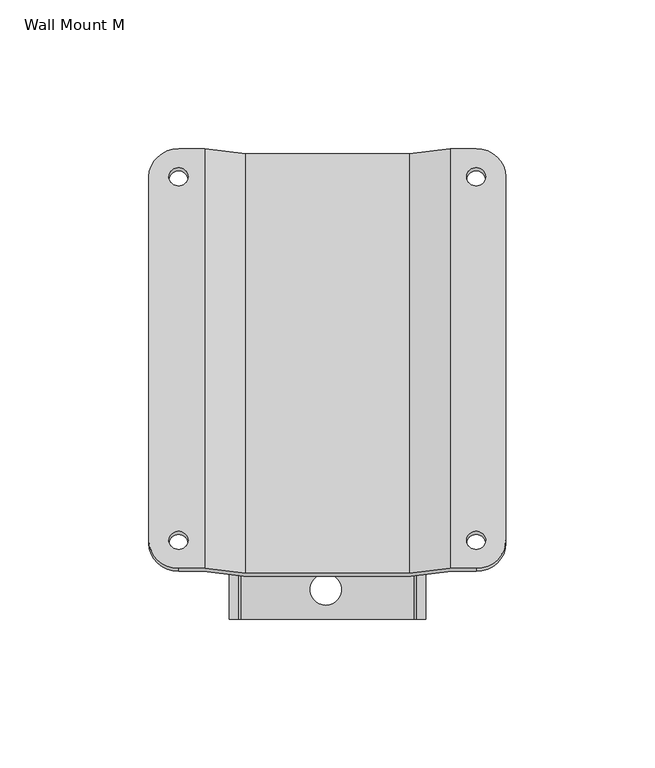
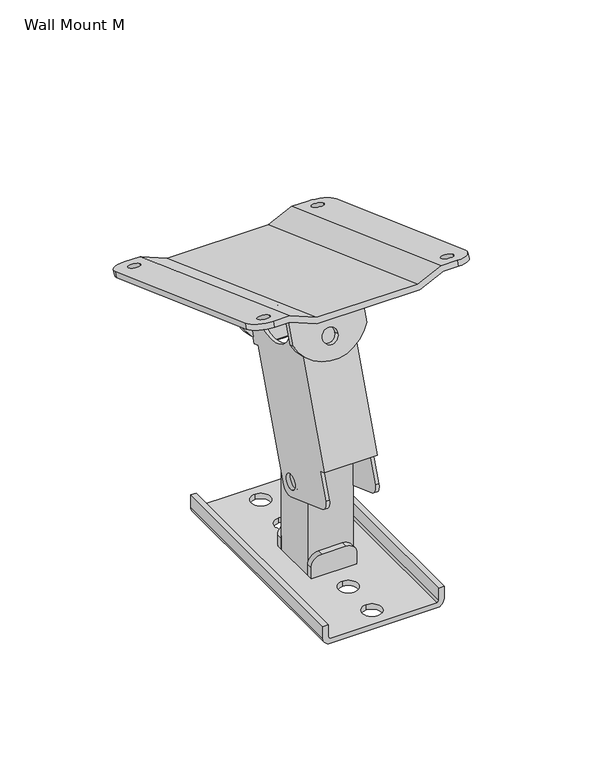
"""IFC4 building model written with IfcOpenShell, lengths in millimetres: proxy geometry, d&b xS-Series Wall Mount M : Wall Mount M."""

from ifc_helpers import new_model, si_unit, point, frame, frame_2d, origin, origin_with_axes, place, context, project, spatial, polyline, circle_curve, trimmed, segment, composite_curve, outline, extrude, source, transform, mapped, element, save
from ifc_brep_helpers import plane_surface, cylinder_surface, revolved_surface, advanced_brep


def wall_mount_m_60f821db(model_context):
    return source(origin(), model_context, "Body", "SolidModel", [
        advanced_brep(
        [(-27.5, -47.1194788, 177.8350831), (-41.2373871, -45.4093781, 182.5335462), (-50.0, -45.4093781, 182.5335462), (-50.0, -46.4354385, 179.7144684), (-41.766368, -46.4354385, 179.7144684), (-28.0289809, -48.1455393, 175.0160053), (28.0289809, -48.1455393, 175.0160053), (41.766368, -46.4354385, 179.7144684), (50.0, -46.4354385, 179.7144684), (50.0, -45.4093781, 182.5335462), (41.2373871, -45.4093781, 182.5335462), (27.5, -47.1194788, 177.8350831), (-27.5, 93.8344143, 126.5320616), (27.5, 93.8344143, 126.5320616), (41.2373871, 95.544515, 131.2305247), (50.0, 95.544515, 131.2305247), (50.0, 94.5184546, 128.4114469), (41.766368, 94.5184546, 128.4114469), (28.0289809, 92.8083539, 123.7129838), (-28.0289809, 92.8083539, 123.7129838), (-41.766368, 94.5184546, 128.4114469), (-50.0, 94.5184546, 128.4114469), (-50.0, 95.544515, 131.2305247), (-41.2373871, 95.544515, 131.2305247), (60.0, -36.0124519, 179.1133448), (60.0, 86.1475888, 134.6507262), (53.2145495, -36.0124519, 179.1133448), (46.7854505, -36.0124519, 179.1133448), (53.2145495, 86.1475888, 134.6507262), (46.7854505, 86.1475888, 134.6507262), (60.0, -37.0385123, 176.2942669), (60.0, 85.1215284, 131.8316483), (46.7854505, 85.1215284, 131.8316483), (53.2145495, 85.1215284, 131.8316483), (46.7854505, -37.0385123, 176.2942669), (53.2145495, -37.0385123, 176.2942669), (-60.0, -37.0385123, 176.2942669), (-60.0, 85.1215284, 131.8316483), (-53.2145495, 85.1215284, 131.8316483), (-46.7854505, 85.1215284, 131.8316483), (-53.2145495, -37.0385123, 176.2942669), (-46.7854505, -37.0385123, 176.2942669), (-60.0, -36.0124519, 179.1133448), (-60.0, 86.1475888, 134.6507262), (-46.7854505, -36.0124519, 179.1133448), (-53.2145495, -36.0124519, 179.1133448), (-46.7854505, 86.1475888, 134.6507262), (-53.2145495, 86.1475888, 134.6507262)],
        [
            (0, 1),
            (1, 2),
            (2, 3),
            (3, 4),
            (4, 5),
            (5, 6),
            (6, 7),
            (7, 8),
            (8, 9),
            (9, 10),
            (10, 11),
            (11, 0),
            (12, 13),
            (13, 14),
            (14, 15),
            (15, 16),
            (16, 17),
            (17, 18),
            (18, 19),
            (19, 20),
            (20, 21),
            (21, 22),
            (22, 23),
            (23, 12),
            (11, 13),
            (12, 0),
            (10, 14),
            (9, 24, circle_curve(frame((50.0, -36.0124519, 179.1133448), z_axis=(0.0, 0.34202014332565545, 0.9396926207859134), x_axis=(1.0, 0.0, 0.0)), 10.0)),
            (24, 25),
            (25, 15, circle_curve(frame((50.0, 86.1475888, 134.6507262), z_axis=(0.0, 0.34202014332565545, 0.9396926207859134), x_axis=(1.0, 0.0, 0.0)), 10.0)),
            (26, 27, circle_curve(frame((50.0, -36.0124519, 179.1133448), z_axis=(0.0, -0.34202014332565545, -0.9396926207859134), x_axis=(1.0, 0.0, 0.0)), 3.2145495)),
            (27, 26, circle_curve(frame((50.0, -36.0124519, 179.1133448), z_axis=(0.0, -0.34202014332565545, -0.9396926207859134), x_axis=(1.0, 0.0, 0.0)), 3.2145495)),
            (28, 29, circle_curve(frame((50.0, 86.1475888, 134.6507262), z_axis=(0.0, -0.34202014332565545, -0.9396926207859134), x_axis=(1.0, 0.0, 0.0)), 3.2145495)),
            (29, 28, circle_curve(frame((50.0, 86.1475888, 134.6507262), z_axis=(0.0, -0.34202014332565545, -0.9396926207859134), x_axis=(1.0, 0.0, 0.0)), 3.2145495)),
            (24, 30),
            (30, 31),
            (31, 25),
            (7, 17),
            (16, 31, circle_curve(frame((50.0, 85.1215284, 131.8316483), z_axis=(0.0, -0.34202014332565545, -0.9396926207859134), x_axis=(1.0, 0.0, 0.0)), 10.0)),
            (30, 8, circle_curve(frame((50.0, -37.0385123, 176.2942669), z_axis=(0.0, -0.34202014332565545, -0.9396926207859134), x_axis=(1.0, 0.0, 0.0)), 10.0)),
            (32, 33, circle_curve(frame((50.0, 85.1215284, 131.8316483), z_axis=(0.0, 0.34202014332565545, 0.9396926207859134), x_axis=(1.0, 0.0, 0.0)), 3.2145495)),
            (33, 32, circle_curve(frame((50.0, 85.1215284, 131.8316483), z_axis=(0.0, 0.34202014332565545, 0.9396926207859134), x_axis=(1.0, 0.0, 0.0)), 3.2145495)),
            (34, 35, circle_curve(frame((50.0, -37.0385123, 176.2942669), z_axis=(0.0, 0.34202014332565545, 0.9396926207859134), x_axis=(1.0, 0.0, 0.0)), 3.2145495)),
            (35, 34, circle_curve(frame((50.0, -37.0385123, 176.2942669), z_axis=(0.0, 0.34202014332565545, 0.9396926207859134), x_axis=(1.0, 0.0, 0.0)), 3.2145495)),
            (6, 18),
            (5, 19),
            (4, 20),
            (3, 36, circle_curve(frame((-50.0, -37.0385123, 176.2942669), z_axis=(0.0, -0.34202014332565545, -0.9396926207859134), x_axis=(1.0, 0.0, 0.0)), 10.0)),
            (36, 37),
            (37, 21, circle_curve(frame((-50.0, 85.1215284, 131.8316483), z_axis=(0.0, -0.34202014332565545, -0.9396926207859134), x_axis=(1.0, 0.0, 0.0)), 10.0)),
            (38, 39, circle_curve(frame((-50.0, 85.1215284, 131.8316483), z_axis=(0.0, 0.34202014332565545, 0.9396926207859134), x_axis=(1.0, 0.0, 0.0)), 3.2145495)),
            (39, 38, circle_curve(frame((-50.0, 85.1215284, 131.8316483), z_axis=(0.0, 0.34202014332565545, 0.9396926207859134), x_axis=(1.0, 0.0, 0.0)), 3.2145495)),
            (40, 41, circle_curve(frame((-50.0, -37.0385123, 176.2942669), z_axis=(0.0, 0.34202014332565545, 0.9396926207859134), x_axis=(1.0, 0.0, 0.0)), 3.2145495)),
            (41, 40, circle_curve(frame((-50.0, -37.0385123, 176.2942669), z_axis=(0.0, 0.34202014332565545, 0.9396926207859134), x_axis=(1.0, 0.0, 0.0)), 3.2145495)),
            (36, 42),
            (42, 43),
            (43, 37),
            (1, 23),
            (22, 43, circle_curve(frame((-50.0, 86.1475888, 134.6507262), z_axis=(0.0, 0.34202014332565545, 0.9396926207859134), x_axis=(1.0, 0.0, 0.0)), 10.0)),
            (42, 2, circle_curve(frame((-50.0, -36.0124519, 179.1133448), z_axis=(0.0, 0.34202014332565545, 0.9396926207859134), x_axis=(1.0, 0.0, 0.0)), 10.0)),
            (44, 45, circle_curve(frame((-50.0, -36.0124519, 179.1133448), z_axis=(0.0, -0.34202014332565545, -0.9396926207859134), x_axis=(1.0, 0.0, 0.0)), 3.2145495)),
            (45, 44, circle_curve(frame((-50.0, -36.0124519, 179.1133448), z_axis=(0.0, -0.34202014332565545, -0.9396926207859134), x_axis=(1.0, 0.0, 0.0)), 3.2145495)),
            (46, 47, circle_curve(frame((-50.0, 86.1475888, 134.6507262), z_axis=(0.0, -0.34202014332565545, -0.9396926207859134), x_axis=(1.0, 0.0, 0.0)), 3.2145495)),
            (47, 46, circle_curve(frame((-50.0, 86.1475888, 134.6507262), z_axis=(0.0, -0.34202014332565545, -0.9396926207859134), x_axis=(1.0, 0.0, 0.0)), 3.2145495)),
            (38, 47),
            (46, 39),
            (32, 29),
            (28, 33),
            (40, 45),
            (44, 41),
            (34, 27),
            (26, 35),
        ],
        [
            plane_surface(frame((27.5, -47.1194788, 177.8350831), z_axis=(0.0, -0.9396926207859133, 0.34202014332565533), x_axis=(-1.0, 0.0, 0.0))),
            plane_surface(frame((27.5, 93.8344143, 126.5320616), z_axis=(0.0, 0.9396926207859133, -0.34202014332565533), x_axis=(1.0, 0.0, 0.0))),
            plane_surface(frame((-27.5, 93.8344143, 126.5320616), z_axis=(0.0, 0.34202014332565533, 0.9396926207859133), x_axis=(0.0, -0.9396926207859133, 0.34202014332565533))),
            plane_surface(frame((27.5, 93.8344143, 126.5320616), z_axis=(-0.34202014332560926, 0.3213938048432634, 0.8830222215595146), x_axis=(0.0, -0.9396926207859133, 0.34202014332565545))),
            plane_surface(frame((41.2373871, 95.544515, 131.2305247), z_axis=(0.0, 0.34202014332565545, 0.9396926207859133), x_axis=(0.0, -0.9396926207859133, 0.34202014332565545))),
            plane_surface(frame((60.0, 95.544515, 131.2305247), z_axis=(1.0000000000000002, 0.0, 0.0), x_axis=(0.0, -0.9396926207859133, 0.34202014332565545))),
            plane_surface(frame((60.0, 94.5184546, 128.4114469), z_axis=(0.0, -0.34202014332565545, -0.9396926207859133), x_axis=(0.0, -0.9396926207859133, 0.34202014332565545))),
            plane_surface(frame((41.766368, 94.5184546, 128.4114469), z_axis=(0.34202014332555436, -0.32139380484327, -0.8830222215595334), x_axis=(0.0, -0.9396926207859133, 0.3420201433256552))),
            plane_surface(frame((28.0289809, 92.8083539, 123.7129838), z_axis=(0.0, -0.34202014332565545, -0.9396926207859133), x_axis=(0.0, -0.9396926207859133, 0.34202014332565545))),
            plane_surface(frame((-28.0289809, 92.8083539, 123.7129838), z_axis=(-0.34202014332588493, -0.32139380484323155, -0.8830222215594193), x_axis=(0.0, -0.9396926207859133, 0.34202014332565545))),
            plane_surface(frame((-41.766368, 94.5184546, 128.4114469), z_axis=(0.0, -0.34202014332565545, -0.9396926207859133), x_axis=(0.0, -0.9396926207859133, 0.34202014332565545))),
            plane_surface(frame((-60.0, 94.5184546, 128.4114469), z_axis=(-1.0, 0.0, 0.0), x_axis=(0.0, -0.9396926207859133, 0.34202014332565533))),
            plane_surface(frame((-60.0, 95.544515, 131.2305247), z_axis=(0.0, 0.34202014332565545, 0.9396926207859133), x_axis=(0.0, -0.9396926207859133, 0.34202014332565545))),
            plane_surface(frame((-41.2373871, 95.544515, 131.2305247), z_axis=(0.3420201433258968, 0.32139380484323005, 0.8830222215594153), x_axis=(0.0, -0.9396926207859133, 0.34202014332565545))),
            cylinder_surface(frame((-50.0, 84.4374881, 129.9522631), z_axis=(0.0, -0.3420201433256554, -0.9396926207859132), x_axis=(1.0, 0.0, 0.0)), 10.0),
            cylinder_surface(frame((-50.0, -36.0124519, 179.1133448), z_axis=(0.0, -0.3420201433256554, -0.9396926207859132), x_axis=(1.0, 0.0, 0.0)), 10.0),
            cylinder_surface(frame((50.0, 86.1475888, 134.6507262), z_axis=(0.0, -0.3420201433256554, -0.9396926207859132), x_axis=(1.0, 0.0, 0.0)), 10.0),
            cylinder_surface(frame((50.0, -36.0124519, 179.1133448), z_axis=(0.0, -0.3420201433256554, -0.9396926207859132), x_axis=(1.0, 0.0, 0.0)), 10.0),
            revolved_surface(polyline([(-46.7854505, 86.1475888, 134.6507262), (-46.7854505, 85.12152836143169, 131.83164831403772)]), (-50.0, 86.1475888, 134.6507262), (0.0, 0.3420201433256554, 0.9396926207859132)),
            revolved_surface(polyline([(53.2145495, 86.1475888, 134.6507262), (53.2145495, 85.12152836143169, 131.83164831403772)]), (50.0, 86.1475888, 134.6507262), (0.0, 0.3420201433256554, 0.9396926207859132)),
            revolved_surface(polyline([(-46.7854505, -36.0124519, 179.1133448), (-46.7854505, -37.03851233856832, 176.2942669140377)]), (-50.0, -36.0124519, 179.1133448), (0.0, 0.3420201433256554, 0.9396926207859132)),
            revolved_surface(polyline([(53.2145495, -36.0124519, 179.1133448), (53.2145495, -37.03851233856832, 176.2942669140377)]), (50.0, -36.0124519, 179.1133448), (0.0, 0.3420201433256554, 0.9396926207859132)),
        ],
        [
            (0, [[1, 2, 3, 4, 5, 6, 7, 8, 9, 10, 11, 12]]),
            (1, [[13, 14, 15, 16, 17, 18, 19, 20, 21, 22, 23, 24]]),
            (2, [[-12, 25, -13, 26]]),
            (3, [[-11, 27, -14, -25]]),
            (4, [[-27, -10, 28, 29, 30, -15], [31, 32], [33, 34]]),
            (5, [[-29, 35, 36, 37]]),
            (6, [[38, -17, 39, -36, 40, -8], [41, 42], [43, 44]]),
            (7, [[-7, 45, -18, -38]]),
            (8, [[-6, 46, -19, -45]]),
            (9, [[-5, 47, -20, -46]]),
            (10, [[-47, -4, 48, 49, 50, -21], [51, 52], [53, 54]]),
            (11, [[-49, 55, 56, 57]]),
            (12, [[58, -23, 59, -56, 60, -2], [61, 62], [63, 64]]),
            (13, [[-1, -26, -24, -58]]),
            (14, [[-22, -50, -57, -59]]),
            (15, [[-3, -60, -55, -48]]),
            (16, [[-16, -30, -37, -39]]),
            (17, [[-9, -40, -35, -28]]),
            (18, [[65, -63, 66, -51]]),
            (18, [[-65, -52, -66, -64]]),
            (19, [[67, -33, 68, -41]]),
            (19, [[-67, -42, -68, -34]]),
            (20, [[69, -61, 70, -53]]),
            (20, [[-69, -54, -70, -62]]),
            (21, [[71, -31, 72, -43]]),
            (21, [[-71, -44, -72, -32]]),
        ],
    ),
        extrude(outline(composite_curve([segment(polyline([(-23.1651514, 0.0), (0.0, 0.0)]), True, "CONTINUOUS"), segment(trimmed(circle_curve(frame_2d((-9.1808839, -20.0)), 22.0065588), [point((0.0, 0.0))], [point((0.0, -40.0))], False, "CARTESIAN"), True, "CONTINUOUS"), segment(polyline([(0.0, -40.0), (-23.1651514, -40.0), (-23.1651514, 0.0)]), True, "CONTINUOUS")], self_intersect=False), holes=[composite_curve([segment(trimmed(circle_curve(frame_2d((0.8447221, -20.0)), 4.2329785), [point((0.8447221, -15.7670215))], [point((0.8447221, -24.2329785))], True, "CARTESIAN"), True, "CONTINUOUS"), segment(trimmed(circle_curve(frame_2d((0.8447221, -20.0)), 4.2329785), [point((0.8447221, -24.2329785))], [point((0.8447221, -15.7670215))], True, "CARTESIAN"), True, "CONTINUOUS")], self_intersect=False)]), frame((20.0, -9.0838566, 136.1468763), z_axis=(0.0, -0.9396926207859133, 0.34202014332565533), x_axis=(0.0, -0.34202014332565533, -0.9396926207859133)), (0.0, 0.0, 1.0), 3.0),
        extrude(outline(composite_curve([segment(polyline([(-23.1651514, 0.0), (0.0, 0.0)]), True, "CONTINUOUS"), segment(trimmed(circle_curve(frame_2d((-9.1808839, -20.0)), 22.0065588), [point((0.0, 0.0))], [point((0.0, -40.0))], False, "CARTESIAN"), True, "CONTINUOUS"), segment(polyline([(0.0, -40.0), (-23.1651514, -40.0), (-23.1651514, 0.0)]), True, "CONTINUOUS")], self_intersect=False), holes=[composite_curve([segment(trimmed(circle_curve(frame_2d((0.844722, -20.0)), 4.2329785), [point((0.844722, -15.7670215))], [point((0.844722, -24.2329785))], True, "CARTESIAN"), True, "CONTINUOUS"), segment(trimmed(circle_curve(frame_2d((0.844722, -20.0)), 4.2329785), [point((0.844722, -24.2329785))], [point((0.844722, -15.7670215))], True, "CARTESIAN"), True, "CONTINUOUS")], self_intersect=False)]), frame((20.0, 40.7198523, 118.0198087), z_axis=(0.0, -0.9396926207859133, 0.34202014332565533), x_axis=(0.0, -0.34202014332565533, -0.9396926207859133)), (0.0, 0.0, 1.0), 3.0),
        advanced_brep(
        [(-12.5, -29.9872471, 52.4010432), (-12.5, 0.0829167, 41.4563986), (-12.5, 6.4914805, 44.444761), (-12.5, 30.4328906, 110.2232444), (-12.5, 38.9833942, 133.71556), (-12.5, 38.0437015, 134.0575801), (-12.5, 0.4559967, 147.7383858), (-12.5, -0.4836959, 148.080406), (-12.5, -27.8453074, 72.9049963), (-12.5, -32.9756095, 58.809607), (-12.5, -1.4487962, 46.0194651), (-12.5, 1.4487962, 53.9805349), (-14.5, -29.9872471, 52.4010432), (-14.5, -32.9756095, 58.809607), (-14.5, -27.8453074, 72.9049963), (-14.5, -31.6040779, 74.2730769), (-14.5, -4.2424664, 149.4484866), (-14.5, 0.4559967, 147.7383858), (-14.5, 38.0437015, 134.0575801), (-14.5, 42.7421646, 132.3474794), (-14.5, 34.1916611, 108.8551639), (-14.5, 30.4328906, 110.2232444), (-14.5, 6.4914805, 44.444761), (-14.5, 0.0829167, 41.4563986), (-14.5, -1.4487962, 46.0194651), (-14.5, 1.4487962, 53.9805349), (12.5, 38.9833942, 133.71556), (12.5, 38.0437015, 134.0575801), (14.5, 38.0437015, 134.0575801), (14.5, 42.7421646, 132.3474794), (14.5, -4.2424664, 149.4484866), (14.5, 0.4559967, 147.7383858), (12.5, 0.4559967, 147.7383858), (12.5, -0.4836959, 148.080406), (14.5, -31.6040779, 74.2730769), (14.5, -27.8453074, 72.9049963), (14.5, -32.9756095, 58.809607), (14.5, -29.9872471, 52.4010432), (14.5, 0.0829167, 41.4563986), (14.5, 6.4914805, 44.444761), (14.5, 30.4328906, 110.2232444), (14.5, 34.1916611, 108.8551639), (14.5, -1.4487962, 46.0194651), (14.5, 1.4487962, 53.9805349), (12.5, -27.8453074, 72.9049963), (12.5, 30.4328906, 110.2232444), (12.5, -29.9872471, 52.4010432), (12.5, -32.9756095, 58.809607), (12.5, 6.4914805, 44.444761), (12.5, 0.0829167, 41.4563986), (12.5, -1.4487962, 46.0194651), (12.5, 1.4487962, 53.9805349)],
        [
            (0, 1),
            (1, 2, circle_curve(frame((-12.5, 1.7930174, 46.1548617), z_axis=(1.0, 0.0, 0.0), x_axis=(0.0, 0.34202014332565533, 0.9396926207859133)), 5.0)),
            (2, 3),
            (3, 4),
            (4, 5),
            (5, 6, circle_curve(frame((-12.5, 19.2498491, 140.897983), z_axis=(-1.0, 0.0, 0.0), x_axis=(0.0, 0.34202014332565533, 0.9396926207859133)), 20.0)),
            (6, 7),
            (7, 8),
            (8, 9),
            (9, 0, circle_curve(frame((-12.5, -28.2771464, 57.0995063), z_axis=(1.0, 0.0, 0.0), x_axis=(0.0, 0.34202014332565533, 0.9396926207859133)), 5.0)),
            (10, 11, circle_curve(frame((-12.5, 0.0, 50.0), z_axis=(-1.0, 0.0, 0.0), x_axis=(0.0, 0.34202014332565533, 0.9396926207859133)), 4.2359968)),
            (11, 10, circle_curve(frame((-12.5, 0.0, 50.0), z_axis=(-1.0, 0.0, 0.0), x_axis=(0.0, 0.34202014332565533, 0.9396926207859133)), 4.2359968)),
            (12, 13, circle_curve(frame((-14.5, -28.2771464, 57.0995063), z_axis=(-1.0, 0.0, 0.0), x_axis=(0.0, 0.34202014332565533, 0.9396926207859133)), 5.0)),
            (13, 14),
            (14, 15),
            (15, 16),
            (16, 17),
            (17, 18, circle_curve(frame((-14.5, 19.2498491, 140.897983), z_axis=(1.0, 0.0, 0.0), x_axis=(0.0, 0.34202014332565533, 0.9396926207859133)), 20.0)),
            (18, 19),
            (19, 20),
            (20, 21),
            (21, 22),
            (22, 23, circle_curve(frame((-14.5, 1.7930174, 46.1548617), z_axis=(-1.0, 0.0, 0.0), x_axis=(0.0, 0.34202014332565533, 0.9396926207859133)), 5.0)),
            (23, 12),
            (24, 25, circle_curve(frame((-14.5, 0.0, 50.0), z_axis=(1.0, 0.0, 0.0), x_axis=(0.0, 0.34202014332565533, 0.9396926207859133)), 4.2359968)),
            (25, 24, circle_curve(frame((-14.5, 0.0, 50.0), z_axis=(1.0, 0.0, 0.0), x_axis=(0.0, 0.34202014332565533, 0.9396926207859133)), 4.2359968)),
            (0, 12),
            (23, 1),
            (22, 2),
            (21, 3),
            (4, 26),
            (26, 27),
            (27, 28),
            (28, 29),
            (29, 19),
            (18, 5),
            (17, 6),
            (16, 30),
            (30, 31),
            (31, 32),
            (32, 33),
            (33, 7),
            (13, 9),
            (8, 14),
            (10, 24),
            (25, 11),
            (30, 34),
            (34, 35),
            (35, 36),
            (36, 37, circle_curve(frame((14.5, -28.2771464, 57.0995063), z_axis=(1.0, 0.0, 0.0), x_axis=(0.0, 0.34202014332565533, 0.9396926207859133)), 5.0)),
            (37, 38),
            (38, 39, circle_curve(frame((14.5, 1.7930174, 46.1548617), z_axis=(1.0, 0.0, 0.0), x_axis=(0.0, 0.34202014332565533, 0.9396926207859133)), 5.0)),
            (39, 40),
            (40, 41),
            (41, 29),
            (28, 31, circle_curve(frame((14.5, 19.2498491, 140.897983), z_axis=(-1.0, 0.0, 0.0), x_axis=(0.0, 0.34202014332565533, 0.9396926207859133)), 20.0)),
            (42, 43, circle_curve(frame((14.5, 0.0, 50.0), z_axis=(-1.0, 0.0, 0.0), x_axis=(0.0, 0.34202014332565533, 0.9396926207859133)), 4.2359968)),
            (43, 42, circle_curve(frame((14.5, 0.0, 50.0), z_axis=(-1.0, 0.0, 0.0), x_axis=(0.0, 0.34202014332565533, 0.9396926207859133)), 4.2359968)),
            (15, 34),
            (33, 44),
            (44, 8),
            (3, 45),
            (45, 26),
            (41, 20),
            (46, 47, circle_curve(frame((12.5, -28.2771464, 57.0995063), z_axis=(-1.0, 0.0, 0.0), x_axis=(0.0, 0.34202014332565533, 0.9396926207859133)), 5.0)),
            (47, 44),
            (32, 27, circle_curve(frame((12.5, 19.2498491, 140.897983), z_axis=(1.0, 0.0, 0.0), x_axis=(0.0, 0.34202014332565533, 0.9396926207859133)), 20.0)),
            (45, 48),
            (48, 49, circle_curve(frame((12.5, 1.7930174, 46.1548617), z_axis=(-1.0, 0.0, 0.0), x_axis=(0.0, 0.34202014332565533, 0.9396926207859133)), 5.0)),
            (49, 46),
            (50, 51, circle_curve(frame((12.5, 0.0, 50.0), z_axis=(1.0, 0.0, 0.0), x_axis=(0.0, 0.34202014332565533, 0.9396926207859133)), 4.2359968)),
            (51, 50, circle_curve(frame((12.5, 0.0, 50.0), z_axis=(1.0, 0.0, 0.0), x_axis=(0.0, 0.34202014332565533, 0.9396926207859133)), 4.2359968)),
            (49, 38),
            (37, 46),
            (48, 39),
            (45, 40),
            (47, 36),
            (35, 44),
            (51, 43),
            (42, 50),
        ],
        [
            plane_surface(frame((-12.5, 0.0829167, 41.4563986), z_axis=(1.0, 0.0, 0.0), x_axis=(0.0, 0.9396926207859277, -0.34202014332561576))),
            plane_surface(frame((-14.5, 0.0829167, 41.4563986), z_axis=(-1.0, 0.0, 0.0), x_axis=(0.0, -0.9396926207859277, 0.34202014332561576))),
            plane_surface(frame((-12.5, -29.9872471, 52.4010432), z_axis=(0.0, -0.34202014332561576, -0.9396926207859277), x_axis=(-1.0, 0.0, 0.0))),
            cylinder_surface(frame((-14.5, 1.7930174, 46.1548617), z_axis=(1.0, 0.0, 0.0), x_axis=(0.0, 0.34202014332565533, 0.9396926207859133)), 5.0),
            plane_surface(frame((-12.5, 6.4914805, 44.444761), z_axis=(0.0, 0.9396926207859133, -0.3420201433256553), x_axis=(-1.0, 0.0, 0.0))),
            plane_surface(frame((-12.5, 38.9833942, 133.71556), z_axis=(0.0, 0.3420201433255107, 0.939692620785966), x_axis=(-1.0, 0.0, 0.0))),
            revolved_surface(polyline([(-14.5, 26.090251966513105, 159.6918354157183), (-12.5, 26.090251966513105, 159.6918354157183)]), (-14.5, 19.2498491, 140.897983), (-1.0, 0.0, 0.0)),
            plane_surface(frame((-12.5, 0.4559967, 147.7383858), z_axis=(0.0, 0.342020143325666, 0.9396926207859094), x_axis=(-1.0, 0.0, 0.0))),
            plane_surface(frame((-12.5, -0.4836959, 148.080406), z_axis=(0.0, -0.9396926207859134, 0.34202014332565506), x_axis=(-1.0, 0.0, 0.0))),
            cylinder_surface(frame((-14.5, -28.2771464, 57.0995063), z_axis=(1.0, 0.0, 0.0), x_axis=(0.0, 0.34202014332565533, 0.9396926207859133)), 5.0),
            revolved_surface(polyline([(-14.5, 1.4487962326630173, 53.98053493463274), (-12.5, 1.4487962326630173, 53.98053493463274)]), (0.0, 0.0, 50.0), (-1.0, 0.0, 0.0)),
            plane_surface(frame((14.5, -4.2424664, 149.4484866), z_axis=(1.0, 0.0, 0.0), x_axis=(0.0, -0.34202014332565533, -0.9396926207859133))),
            plane_surface(frame((14.5, -4.2424664, 149.4484866), z_axis=(0.0, -0.9396926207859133, 0.34202014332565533), x_axis=(-1.0, 0.0, 0.0))),
            plane_surface(frame((14.5, -27.8453074, 72.9049963), z_axis=(0.0, 0.9396926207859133, -0.3420201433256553), x_axis=(-1.0, 0.0, 0.0))),
            plane_surface(frame((14.5, 38.9833942, 133.71556), z_axis=(0.0, -0.9396926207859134, 0.3420201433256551), x_axis=(-1.0, 0.0, 0.0))),
            plane_surface(frame((14.5, 34.1916611, 108.8551639), z_axis=(0.0, 0.9396926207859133, -0.34202014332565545), x_axis=(-1.0, 0.0, 0.0))),
            plane_surface(frame((12.5, 0.0829167, 41.4563986), z_axis=(-1.0, 0.0, 0.0), x_axis=(0.0, -0.9396926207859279, 0.34202014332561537))),
            plane_surface(frame((14.5, -29.9872471, 52.4010432), z_axis=(0.0, -0.34202014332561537, -0.9396926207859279), x_axis=(-1.0, 0.0, 0.0))),
            cylinder_surface(frame((12.5, 1.7930174, 46.1548617), z_axis=(1.0, 0.0, 0.0), x_axis=(0.0, 0.34202014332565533, 0.9396926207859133)), 5.0),
            plane_surface(frame((14.5, 6.4914805, 44.444761), z_axis=(0.0, 0.9396926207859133, -0.3420201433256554), x_axis=(-1.0, 0.0, 0.0))),
            revolved_surface(polyline([(12.5, 26.090251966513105, 159.6918354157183), (14.5, 26.090251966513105, 159.6918354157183)]), (12.5, 19.2498491, 140.897983), (-1.0, 0.0, 0.0)),
            plane_surface(frame((14.5, -0.4836959, 148.080406), z_axis=(0.0, -0.9396926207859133, 0.3420201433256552), x_axis=(-1.0, 0.0, 0.0))),
            cylinder_surface(frame((12.5, -28.2771464, 57.0995063), z_axis=(1.0, 0.0, 0.0), x_axis=(0.0, 0.34202014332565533, 0.9396926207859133)), 5.0),
            revolved_surface(polyline([(12.5, 1.4487962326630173, 53.98053493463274), (14.5, 1.4487962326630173, 53.98053493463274)]), (0.0, 0.0, 50.0), (-1.0, 0.0, 0.0)),
            plane_surface(frame((14.5, -31.6040779, 74.2730769), z_axis=(0.0, -0.3420201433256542, -0.9396926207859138), x_axis=(-1.0, 0.0, 0.0))),
            plane_surface(frame((14.5, 30.4328906, 110.2232444), z_axis=(0.0, -0.342020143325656, -0.9396926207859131), x_axis=(-1.0, 0.0, 0.0))),
        ],
        [
            (0, [[1, 2, 3, 4, 5, 6, 7, 8, 9, 10], [11, 12]]),
            (1, [[13, 14, 15, 16, 17, 18, 19, 20, 21, 22, 23, 24], [25, 26]]),
            (2, [[-1, 27, -24, 28]]),
            (3, [[-2, -28, -23, 29]]),
            (4, [[-29, -22, 30, -3]]),
            (5, [[-5, 31, 32, 33, 34, 35, -19, 36]]),
            (6, [[-6, -36, -18, 37]]),
            (7, [[-7, -37, -17, 38, 39, 40, 41, 42]]),
            (8, [[43, -9, 44, -14]]),
            (9, [[-10, -43, -13, -27]]),
            (10, [[-11, 45, -26, 46]]),
            (10, [[-12, -46, -25, -45]]),
            (11, [[-39, 47, 48, 49, 50, 51, 52, 53, 54, 55, -34, 56], [57, 58]]),
            (12, [[-47, -38, -16, 59]]),
            (13, [[-8, -42, 60, 61]]),
            (14, [[-4, 62, 63, -31]]),
            (15, [[-55, 64, -20, -35]]),
            (16, [[65, 66, -60, -41, 67, -32, -63, 68, 69, 70], [71, 72]]),
            (17, [[-70, 73, -51, 74]]),
            (18, [[-69, 75, -52, -73]]),
            (19, [[-75, -68, 76, -53]]),
            (20, [[-67, -40, -56, -33]]),
            (21, [[77, -49, 78, -66]]),
            (22, [[-65, -74, -50, -77]]),
            (23, [[-72, 79, -57, 80]]),
            (23, [[-71, -80, -58, -79]]),
            (24, [[-48, -59, -15, -44, -61, -78]]),
            (25, [[-54, -76, -62, -30, -21, -64]]),
        ],
    ),
        advanced_brep(
        [(29.0, 62.5, 3.0), (-29.0, 62.5, 3.0), (-29.0, -62.5, 3.0), (29.0, -62.5, 3.0), (-0.5249221, 35.2931023, 3.0), (-0.5249221, 24.8355217, 3.0), (-0.5249221, -24.8355217, 3.0), (-0.5249221, -35.2931023, 3.0), (-12.5, -15.75, 3.0), (-12.5, 15.75, 3.0), (12.5, 15.75, 3.0), (12.5, -15.75, 3.0), (-0.5249221, 57.7287903, 3.0), (-0.5249221, 47.2712097, 3.0), (-0.5249221, -47.2712097, 3.0), (-0.5249221, -57.7287903, 3.0), (29.0, -62.5, 0.0), (-29.0, -62.5, 0.0), (-29.0, 62.5, 0.0), (29.0, 62.5, 0.0), (-0.5249221, 35.2931023, 0.0), (-0.5249221, 24.8355217, 0.0), (-0.5249221, -24.8355217, 0.0), (-0.5249221, -35.2931023, 0.0), (-12.5, -15.75, 0.0), (12.5, -15.75, 0.0), (12.5, 15.75, 0.0), (-12.5, 15.75, 0.0), (-0.5249221, 57.7287903, 0.0), (-0.5249221, 47.2712097, 0.0), (-0.5249221, -47.2712097, 0.0), (-0.5249221, -57.7287903, 0.0), (30.0, 62.5, 4.0), (30.0, 62.5, 11.0), (33.0, 62.5, 11.0), (33.0, 62.5, 4.0), (-33.0, 62.5, 4.0), (-33.0, 62.5, 11.0), (-30.0, 62.5, 11.0), (-30.0, 62.5, 4.0), (-30.0, -62.5, 4.0), (-30.0, -62.5, 11.0), (-33.0, -62.5, 11.0), (-33.0, -62.5, 4.0), (33.0, -62.5, 4.0), (33.0, -62.5, 11.0), (30.0, -62.5, 11.0), (30.0, -62.5, 4.0)],
        [
            (0, 1),
            (1, 2),
            (2, 3),
            (3, 0),
            (4, 5, circle_curve(frame((-0.5249221, 30.064312, 3.0), z_axis=(0.0, 0.0, -1.0), x_axis=(0.0, -1.0, 0.0)), 5.2287903)),
            (5, 4, circle_curve(frame((-0.5249221, 30.064312, 3.0), z_axis=(0.0, 0.0, -1.0), x_axis=(0.0, -1.0, 0.0)), 5.2287903)),
            (6, 7, circle_curve(frame((-0.5249221, -30.064312, 3.0), z_axis=(0.0, 0.0, -1.0), x_axis=(0.0, -1.0, 0.0)), 5.2287903)),
            (7, 6, circle_curve(frame((-0.5249221, -30.064312, 3.0), z_axis=(0.0, 0.0, -1.0), x_axis=(0.0, -1.0, 0.0)), 5.2287903)),
            (8, 9),
            (9, 10),
            (10, 11),
            (11, 8),
            (12, 13, circle_curve(frame((-0.5249221, 52.5, 3.0), z_axis=(0.0, 0.0, -1.0), x_axis=(0.0, -1.0, 0.0)), 5.2287903)),
            (13, 12, circle_curve(frame((-0.5249221, 52.5, 3.0), z_axis=(0.0, 0.0, -1.0), x_axis=(0.0, -1.0, 0.0)), 5.2287903)),
            (14, 15, circle_curve(frame((-0.5249221, -52.5, 3.0), z_axis=(0.0, 0.0, -1.0), x_axis=(0.0, -1.0, 0.0)), 5.2287903)),
            (15, 14, circle_curve(frame((-0.5249221, -52.5, 3.0), z_axis=(0.0, 0.0, -1.0), x_axis=(0.0, -1.0, 0.0)), 5.2287903)),
            (16, 17),
            (17, 18),
            (18, 19),
            (19, 16),
            (20, 21, circle_curve(frame((-0.5249221, 30.064312, 0.0), z_axis=(0.0, 0.0, 1.0), x_axis=(0.0, -1.0, 0.0)), 5.2287903)),
            (21, 20, circle_curve(frame((-0.5249221, 30.064312, 0.0), z_axis=(0.0, 0.0, 1.0), x_axis=(0.0, -1.0, 0.0)), 5.2287903)),
            (22, 23, circle_curve(frame((-0.5249221, -30.064312, 0.0), z_axis=(0.0, 0.0, 1.0), x_axis=(0.0, -1.0, 0.0)), 5.2287903)),
            (23, 22, circle_curve(frame((-0.5249221, -30.064312, 0.0), z_axis=(0.0, 0.0, 1.0), x_axis=(0.0, -1.0, 0.0)), 5.2287903)),
            (24, 25),
            (25, 26),
            (26, 27),
            (27, 24),
            (28, 29, circle_curve(frame((-0.5249221, 52.5, 0.0), z_axis=(0.0, 0.0, 1.0), x_axis=(0.0, -1.0, 0.0)), 5.2287903)),
            (29, 28, circle_curve(frame((-0.5249221, 52.5, 0.0), z_axis=(0.0, 0.0, 1.0), x_axis=(0.0, -1.0, 0.0)), 5.2287903)),
            (30, 31, circle_curve(frame((-0.5249221, -52.5, 0.0), z_axis=(0.0, 0.0, 1.0), x_axis=(0.0, -1.0, 0.0)), 5.2287903)),
            (31, 30, circle_curve(frame((-0.5249221, -52.5, 0.0), z_axis=(0.0, 0.0, 1.0), x_axis=(0.0, -1.0, 0.0)), 5.2287903)),
            (0, 32, circle_curve(frame((29.0, 62.5, 4.0), z_axis=(0.0, -1.0, 0.0), x_axis=(1.0, 0.0, 0.0)), 1.0)),
            (32, 33),
            (33, 34),
            (34, 35),
            (35, 19, circle_curve(frame((29.0, 62.5, 4.0), z_axis=(0.0, 1.0, 0.0), x_axis=(1.0, 0.0, 0.0)), 4.0)),
            (18, 36, circle_curve(frame((-29.0, 62.5, 4.0), z_axis=(0.0, 1.0, 0.0), x_axis=(1.0, 0.0, 0.0)), 4.0)),
            (36, 37),
            (37, 38),
            (38, 39),
            (39, 1, circle_curve(frame((-29.0, 62.5, 4.0), z_axis=(0.0, -1.0, 0.0), x_axis=(1.0, 0.0, 0.0)), 1.0)),
            (2, 40, circle_curve(frame((-29.0, -62.5, 4.0), z_axis=(0.0, 1.0, 0.0), x_axis=(1.0, 0.0, 0.0)), 1.0)),
            (40, 41),
            (41, 42),
            (42, 43),
            (43, 17, circle_curve(frame((-29.0, -62.5, 4.0), z_axis=(0.0, -1.0, 0.0), x_axis=(1.0, 0.0, 0.0)), 4.0)),
            (16, 44, circle_curve(frame((29.0, -62.5, 4.0), z_axis=(0.0, -1.0, 0.0), x_axis=(1.0, 0.0, 0.0)), 4.0)),
            (44, 45),
            (45, 46),
            (46, 47),
            (47, 3, circle_curve(frame((29.0, -62.5, 4.0), z_axis=(0.0, 1.0, 0.0), x_axis=(1.0, 0.0, 0.0)), 1.0)),
            (4, 20),
            (21, 5),
            (6, 22),
            (23, 7),
            (8, 24),
            (27, 9),
            (26, 10),
            (25, 11),
            (46, 33),
            (32, 47),
            (35, 44),
            (34, 45),
            (41, 38),
            (37, 42),
            (36, 43),
            (39, 40),
            (12, 28),
            (29, 13),
            (14, 30),
            (31, 15),
        ],
        [
            plane_surface(frame((29.0, 52.5846249, 3.0), z_axis=(0.0, 0.0, 1.0), x_axis=(0.0, 1.0, 0.0))),
            plane_surface(frame((29.0, 52.5846249, 0.0), z_axis=(0.0, 0.0, -1.0), x_axis=(0.0, -1.0, 0.0))),
            plane_surface(frame((29.0, 62.5, 3.0), z_axis=(0.0, 1.0, 0.0), x_axis=(0.0, 0.0, -1.0))),
            plane_surface(frame((-29.0, -62.5, 3.0), z_axis=(0.0, -1.0, 0.0), x_axis=(0.0, 0.0, -1.0))),
            revolved_surface(polyline([(-0.5249221, 24.8355217, 0.0), (-0.5249221, 24.8355217, 3.0)]), (-0.5249221, 30.064312, 0.0), (0.0, 0.0, -1.0)),
            revolved_surface(polyline([(-0.5249221, -35.2931023, 0.0), (-0.5249221, -35.2931023, 3.0)]), (-0.5249221, -30.064312, 0.0), (0.0, 0.0, -1.0)),
            plane_surface(frame((-12.5, -15.75, 3.0), z_axis=(1.0, 0.0, 0.0), x_axis=(0.0, 0.0, -1.0))),
            plane_surface(frame((-12.5, 15.75, 3.0), z_axis=(0.0, -1.0, 0.0), x_axis=(0.0, 0.0, -1.0))),
            plane_surface(frame((12.5, 15.75, 3.0), z_axis=(-1.0, 0.0, 0.0), x_axis=(0.0, 0.0, -1.0))),
            plane_surface(frame((12.5, -15.75, 3.0), z_axis=(0.0, 1.0, 0.0), x_axis=(0.0, 0.0, -1.0))),
            plane_surface(frame((30.0, -62.5, 11.0), z_axis=(-1.0, 0.0, 0.0), x_axis=(0.0, 1.0, 0.0))),
            revolved_surface(polyline([(30.0, 62.5, 4.0), (30.0, -62.5, 4.0)]), (29.0, 62.5, 4.0), (0.0, 1.0, 0.0)),
            cylinder_surface(frame((29.0, 62.5, 4.0), z_axis=(0.0, -1.0, 0.0), x_axis=(1.0, 0.0, 0.0)), 4.0),
            plane_surface(frame((33.0, -62.5, 4.0), z_axis=(1.0, 0.0, -2.5512639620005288e-12), x_axis=(0.0, 1.0, 0.0))),
            plane_surface(frame((33.0, -62.5, 11.0), z_axis=(0.0, 0.0, 1.0), x_axis=(0.0, 1.0, 0.0))),
            plane_surface(frame((-30.0, -62.5, 11.0), z_axis=(0.0, 0.0, 1.0), x_axis=(0.0, 1.0, 0.0))),
            plane_surface(frame((-33.0, -62.5, 11.0), z_axis=(-1.0, 0.0, -2.55126396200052e-12), x_axis=(0.0, 1.0, 0.0))),
            cylinder_surface(frame((-29.0, 0.0, 4.0), z_axis=(0.0, -1.0, 0.0), x_axis=(1.0, 0.0, 0.0)), 4.0),
            revolved_surface(polyline([(-28.0, 62.5, 4.0), (-28.0, -62.5, 4.0)]), (-29.0, 0.0, 4.0), (0.0, 1.0, 0.0)),
            plane_surface(frame((-30.0, -62.5, 4.0), z_axis=(1.0, 0.0, 0.0), x_axis=(0.0, 1.0, 0.0))),
            revolved_surface(polyline([(-0.5249221, 47.2712097, 0.0), (-0.5249221, 47.2712097, 3.0)]), (-0.5249221, 52.5, 0.0), (0.0, 0.0, -1.0)),
            revolved_surface(polyline([(-0.5249221, -57.7287903, 0.0), (-0.5249221, -57.7287903, 3.0)]), (-0.5249221, -52.5, 0.0), (0.0, 0.0, -1.0)),
        ],
        [
            (0, [[1, 2, 3, 4], [5, 6], [7, 8], [9, 10, 11, 12], [13, 14], [15, 16]]),
            (1, [[17, 18, 19, 20], [21, 22], [23, 24], [25, 26, 27, 28], [29, 30], [31, 32]]),
            (2, [[-1, 33, 34, 35, 36, 37, -19, 38, 39, 40, 41, 42]]),
            (3, [[-3, 43, 44, 45, 46, 47, -17, 48, 49, 50, 51, 52]]),
            (4, [[-5, 53, -22, 54]]),
            (4, [[-6, -54, -21, -53]]),
            (5, [[-7, 55, -24, 56]]),
            (5, [[-8, -56, -23, -55]]),
            (6, [[-9, 57, -28, 58]]),
            (7, [[-10, -58, -27, 59]]),
            (8, [[-11, -59, -26, 60]]),
            (9, [[-12, -60, -25, -57]]),
            (10, [[-51, 61, -34, 62]]),
            (11, [[-52, -62, -33, -4]]),
            (12, [[-48, -20, -37, 63]]),
            (13, [[-49, -63, -36, 64]]),
            (14, [[-50, -64, -35, -61]]),
            (15, [[-45, 65, -40, 66]]),
            (16, [[-46, -66, -39, 67]]),
            (17, [[-47, -67, -38, -18]]),
            (18, [[-43, -2, -42, 68]]),
            (19, [[-44, -68, -41, -65]]),
            (20, [[-13, 69, -30, 70]]),
            (20, [[-14, -70, -29, -69]]),
            (21, [[-15, 71, -32, 72]]),
            (21, [[-16, -72, -31, -71]]),
        ],
    ),
        extrude(outline(composite_curve([segment(polyline([(0.0, -12.5), (0.0, 12.5), (9.0, 12.5)]), True, "CONTINUOUS"), segment(trimmed(circle_curve(frame_2d((9.0, 6.5)), 6.0), [point((9.0, 12.5))], [point((15.0, 6.5))], False, "CARTESIAN"), True, "CONTINUOUS"), segment(polyline([(15.0, 6.5), (15.0, -6.5)]), True, "CONTINUOUS"), segment(trimmed(circle_curve(frame_2d((9.0, -6.5)), 6.0), [point((15.0, -6.5))], [point((9.0, -12.5))], False, "CARTESIAN"), True, "CONTINUOUS"), segment(polyline([(9.0, -12.5), (0.0, -12.5)]), True, "CONTINUOUS")], self_intersect=False)), frame((0.0, -15.75, 0.0), z_axis=(0.0, 1.0, 0.0), x_axis=(0.0, 0.0, 1.0)), (0.0, 0.0, 1.0), 3.25),
        extrude(outline(composite_curve([segment(polyline([(0.0, -12.5), (0.0, 12.5), (9.0, 12.5)]), True, "CONTINUOUS"), segment(trimmed(circle_curve(frame_2d((9.0, 6.5)), 6.0), [point((9.0, 12.5))], [point((15.0, 6.5))], False, "CARTESIAN"), True, "CONTINUOUS"), segment(polyline([(15.0, 6.5), (15.0, -6.5)]), True, "CONTINUOUS"), segment(trimmed(circle_curve(frame_2d((9.0, -6.5)), 6.0), [point((15.0, -6.5))], [point((9.0, -12.5))], False, "CARTESIAN"), True, "CONTINUOUS"), segment(polyline([(9.0, -12.5), (0.0, -12.5)]), True, "CONTINUOUS")], self_intersect=False)), frame((0.0, 12.5, 0.0), z_axis=(0.0, 1.0, 0.0), x_axis=(0.0, 0.0, 1.0)), (0.0, 0.0, 1.0), 3.25),
        extrude(outline(polyline([(12.5, 12.5), (12.5, -12.5), (-12.5, -12.5), (-12.5, 12.5), (12.5, 12.5)]), holes=[polyline([(10.5, 10.5), (-10.5, 10.5), (-10.5, -10.5), (10.5, -10.5), (10.5, 10.5)])]), origin_with_axes(), (0.0, 0.0, 1.0), 97.0),
    ])


if __name__ == "__main__":
    model = new_model("IFC4")
    model_context = context("Model", 3, world=origin())
    ifc_project = project(units=[si_unit("LENGTHUNIT", "METRE", prefix="MILLI")], contexts=[model_context])
    site = spatial("IfcSite", under=ifc_project)
    building = spatial("IfcBuilding", under=site)
    placement = place(None, origin())
    wall_mount_m_shape = wall_mount_m_60f821db(model_context)
    element("IfcBuildingElementProxy", 1, Name="d&b xS-Series Wall Mount M : Wall Mount M", ObjectType="d&b xS-Series Wall Mount M : Wall Mount M", at=placement, inside=building, context=model_context, shape_type="MappedRepresentation", body=[
        mapped(wall_mount_m_shape, transform((0.0, 0.0, 0.0), x_axis=(1.0, 0.0, 0.0), y_axis=(0.0, 1.0, 0.0), z_axis=(0.0, 0.0, 1.0))),
    ])
    save(model, "model.ifc")
